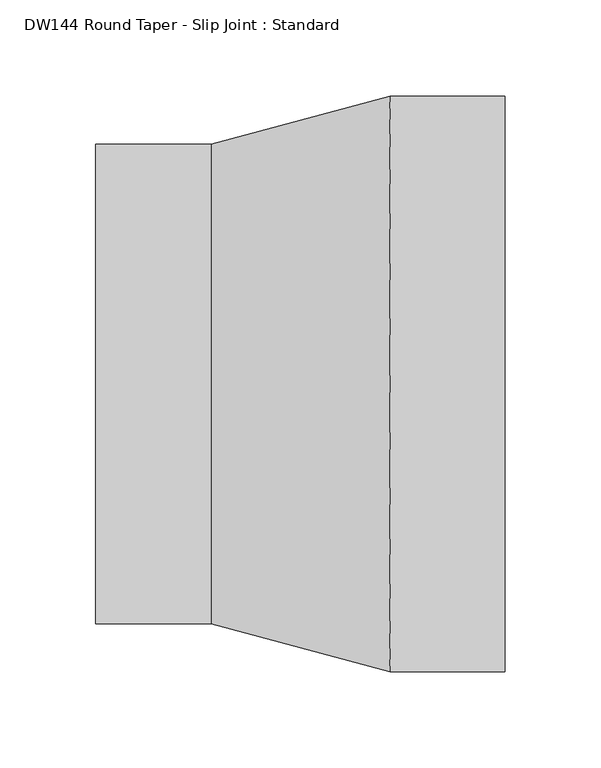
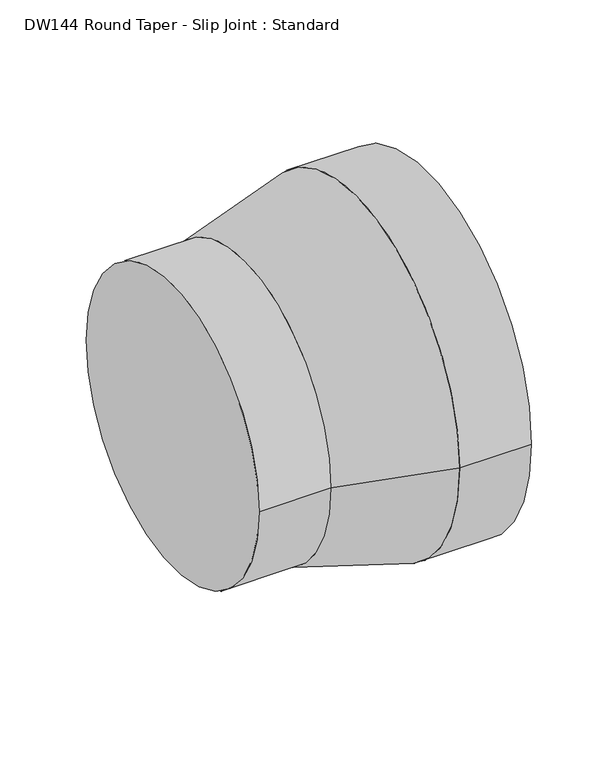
"""IFC4 building model written with IfcOpenShell, lengths in millimetres: duct fitting geometry, DW144 Round Taper - Slip Joint : Standard."""

from ifc_helpers import new_model, si_unit, point, frame, origin, origin_2d, place, context, project, spatial, polyline, circle_curve, trimmed, segment, composite_curve, outline, extrude, source, transform, mapped, element, save
from ifc_brep_helpers import plane_surface, revolved_surface, advanced_brep


def dw144_round_taper_slip_joint_standard_ee907e0b(model_context):
    return source(origin(), model_context, "Body", "SolidModel", [
        extrude(outline(composite_curve([segment(trimmed(circle_curve(origin_2d(), 150.0), [point((-150.0, 0.0))], [point((150.0, 0.0))], False, "CARTESIAN"), True, "CONTINUOUS"), segment(trimmed(circle_curve(origin_2d(), 150.0), [point((150.0, 0.0))], [point((-150.0, 0.0))], False, "CARTESIAN"), True, "CONTINUOUS")], self_intersect=False)), frame((153.3012702, 0.0, 0.0), z_axis=(1.0, 0.0, 0.0), x_axis=(0.0, 1.0, 0.0)), (0.0, 0.0, 1.0), 60.0),
        extrude(outline(composite_curve([segment(trimmed(circle_curve(origin_2d(), 125.0), [point((-125.0, 0.0))], [point((125.0, 0.0))], False, "CARTESIAN"), True, "CONTINUOUS"), segment(trimmed(circle_curve(origin_2d(), 125.0), [point((125.0, 0.0))], [point((-125.0, 0.0))], False, "CARTESIAN"), True, "CONTINUOUS")], self_intersect=False)), frame((0.0, 0.0, 0.0), z_axis=(1.0, 0.0, 0.0), x_axis=(0.0, 1.0, 0.0)), (0.0, 0.0, 1.0), 60.0),
        advanced_brep(
        [(153.3012702, -150.0, 0.0), (153.3012702, 150.0, 0.0), (60.0, -125.0, 0.0), (60.0, 125.0, 0.0)],
        [
            (0, 1, circle_curve(frame((153.3012702, 0.0, 0.0), z_axis=(1.0, 0.0, 0.0), x_axis=(0.0, -1.0, 0.0)), 150.0)),
            (1, 0, circle_curve(frame((153.3012702, 0.0, 0.0), z_axis=(1.0, 0.0, 0.0), x_axis=(0.0, 1.0, 0.0)), 150.0)),
            (2, 3, circle_curve(frame((60.0, 0.0, 0.0), z_axis=(-1.0, 0.0, 0.0), x_axis=(0.0, 1.0, 0.0)), 125.0)),
            (3, 2, circle_curve(frame((60.0, 0.0, 0.0), z_axis=(-1.0, 0.0, 0.0), x_axis=(0.0, -1.0, 0.0)), 125.0)),
            (3, 1),
            (0, 2),
        ],
        [
            plane_surface(frame((153.3012702, 0.0, 0.0), z_axis=(1.0, 0.0, 0.0), x_axis=(0.0, 0.0, -1.0))),
            plane_surface(frame((60.0, 0.0, 0.0), z_axis=(-1.0, 0.0, 0.0), x_axis=(0.0, 0.0, -1.0))),
            revolved_surface(polyline([(60.0, 124.99999999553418, 0.0), (153.30127020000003, 150.0, 0.0)]), (-406.5063509, 0.0, 0.0), (1.0, 0.0, 0.0)),
            revolved_surface(polyline([(60.0, -124.99999999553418, 0.0), (153.30127020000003, -150.0, 0.0)]), (-406.5063509, 0.0, 0.0), (1.0, 0.0, 0.0)),
        ],
        [
            (0, [[1, 2]]),
            (1, [[3, 4]]),
            (2, [[-4, 5, -1, 6]]),
            (3, [[-3, -6, -2, -5]]),
        ],
    ),
    ])


if __name__ == "__main__":
    model = new_model("IFC4")
    model_context = context("Model", 3, world=origin())
    ifc_project = project(units=[si_unit("LENGTHUNIT", "METRE", prefix="MILLI")], contexts=[model_context])
    site = spatial("IfcSite", under=ifc_project)
    building = spatial("IfcBuilding", under=site)
    placement = place(None, origin())
    dw144_round_taper_slip_joint_standard_shape = dw144_round_taper_slip_joint_standard_ee907e0b(model_context)
    element("IfcDuctFitting", 1, ObjectType="DW144 Round Taper - Slip Joint : Standard", at=placement, inside=building, context=model_context, shape_type="MappedRepresentation", body=[
        mapped(dw144_round_taper_slip_joint_standard_shape, transform((0.0, 0.0, 0.0), x_axis=(1.0, 0.0, 0.0), y_axis=(0.0, 1.0, 0.0), z_axis=(0.0, 0.0, 1.0))),
    ])
    save(model, "model.ifc")
